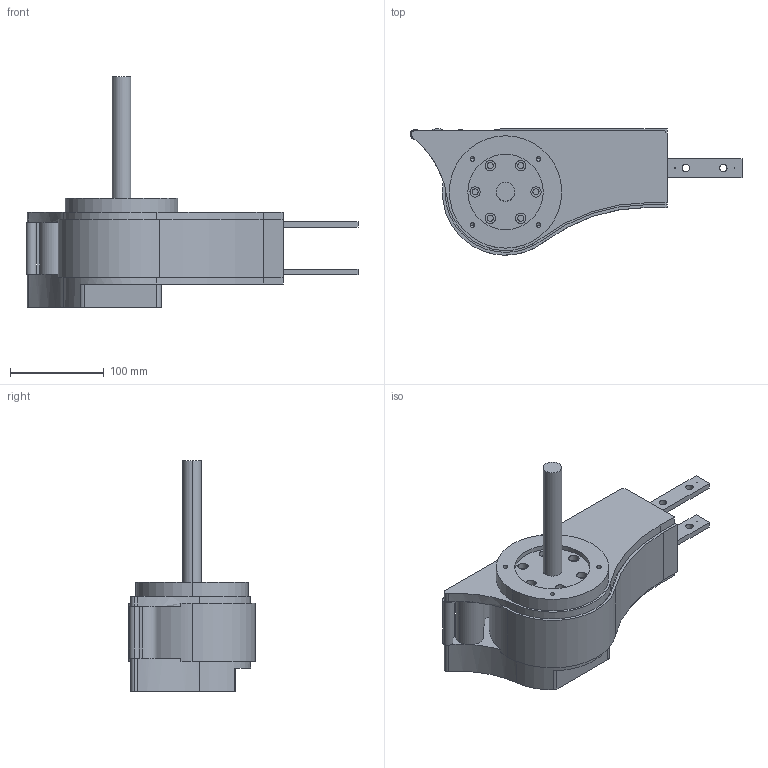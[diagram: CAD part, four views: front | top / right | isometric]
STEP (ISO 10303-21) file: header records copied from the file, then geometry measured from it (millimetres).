
FILE_DESCRIPTION (( 'STEP AP214' ), '1' );
FILE_NAME ('CS SL Aandr. - Omloop.65 Aandr. rol links.STEP', '2017-02-08T07:32:52', ( '' ), ( '' ), 'SwSTEP 2.0', 'SolidWorks 2016', '' );
FILE_SCHEMA (( 'AUTOMOTIVE_DESIGN' ));
Length unit declared in the file: millimetre
Products named in the file (1): CS SL Aandr. - Omloop.65 Aandr. rol links
Bounding box: 354.5 x 134.96 x 246.6 mm (x, y, z)
Volume: 2472766.7 mm3; surface area: 160882.2 mm2
Topology: 1 solids, 1 shells, 159 faces, 426 edges, 272 vertices
Faces by surface type: cylinder 80, plane 71, cone 8
Entity records: 5141 total; most frequent: DIRECTION 929, CARTESIAN_POINT 850, ORIENTED_EDGE 836, EDGE_CURVE 418, AXIS2_PLACEMENT_3D 351, VERTEX_POINT 272, LINE 227, VECTOR 227
